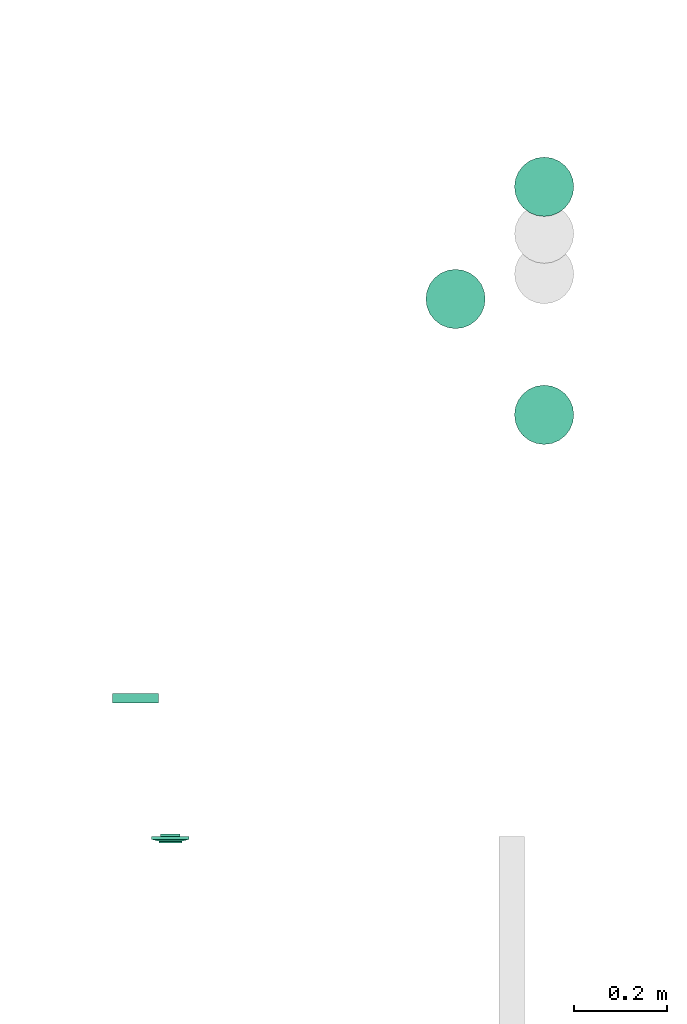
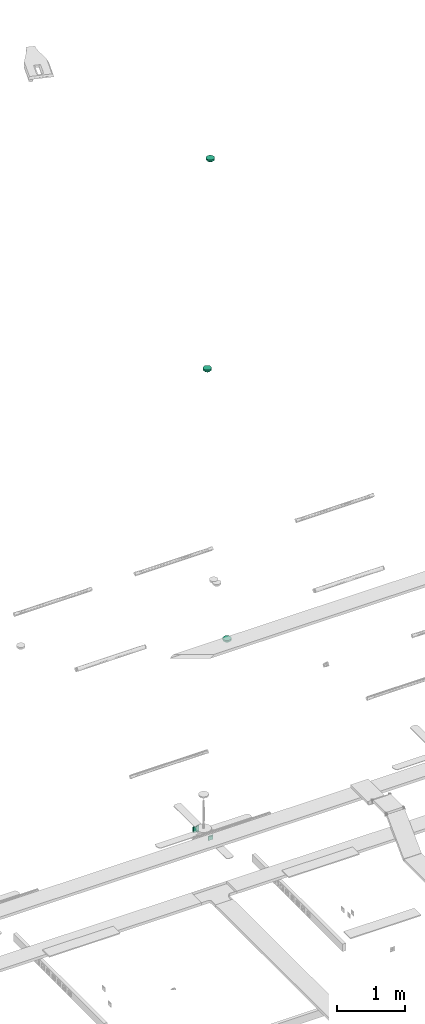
# One storey, part 122 of 153: 5 flow terminals.
"""IFC2X3 building model written with IfcOpenShell, lengths in metres."""

from ifc_helpers import new_model, entity, si_unit, converted_unit, derived_unit, direction, frame, origin, origin_2d_with_axis, place, context, subcontext, project, spatial, rectangle, extrude, faceted_brep, source, transform, mapped, type_object, type_shapes, element, save


model = new_model("IFC2X3")

# Units and contexts
model_context = context("Model", 3, precision=1e-05, world=origin(), true_north=direction((6.12303176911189e-17, 1.0)))
body_context = subcontext(model_context, "Body", "Model", "MODEL_VIEW")
ifc_project = project(units=[si_unit("LENGTHUNIT", "METRE"), si_unit("AREAUNIT", "SQUARE_METRE"), si_unit("VOLUMEUNIT", "CUBIC_METRE"), converted_unit("PLANEANGLEUNIT", "DEGREE", entity("IfcRatioMeasure", 0.0174532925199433), si_unit("PLANEANGLEUNIT", "RADIAN"), dimensions=[0, 0, 0, 0, 0, 0, 0]), si_unit("MASSUNIT", "GRAM", prefix="KILO"), derived_unit("MASSDENSITYUNIT", [(si_unit("MASSUNIT", "GRAM", prefix="KILO"), 1), (si_unit("LENGTHUNIT", "METRE"), -3)]), si_unit("TIMEUNIT", "SECOND"), si_unit("FREQUENCYUNIT", "HERTZ"), si_unit("THERMODYNAMICTEMPERATUREUNIT", "DEGREE_CELSIUS"), derived_unit("THERMALTRANSMITTANCEUNIT", [(si_unit("MASSUNIT", "GRAM", prefix="KILO"), 1), (si_unit("THERMODYNAMICTEMPERATUREUNIT", "KELVIN"), -1), (si_unit("TIMEUNIT", "SECOND"), -3)]), derived_unit("VOLUMETRICFLOWRATEUNIT", [(si_unit("LENGTHUNIT", "METRE"), 3), (si_unit("TIMEUNIT", "SECOND"), -1)]), si_unit("ELECTRICCURRENTUNIT", "AMPERE"), si_unit("ELECTRICVOLTAGEUNIT", "VOLT"), si_unit("POWERUNIT", "WATT"), si_unit("FORCEUNIT", "NEWTON"), si_unit("ILLUMINANCEUNIT", "LUX"), si_unit("LUMINOUSFLUXUNIT", "LUMEN"), si_unit("LUMINOUSINTENSITYUNIT", "CANDELA"), derived_unit("USERDEFINED", [(si_unit("MASSUNIT", "GRAM", prefix="KILO"), -1), (si_unit("LENGTHUNIT", "METRE"), -2), (si_unit("TIMEUNIT", "SECOND"), 3), (si_unit("LUMINOUSFLUXUNIT", "LUMEN"), 1)]), derived_unit("LINEARVELOCITYUNIT", [(si_unit("LENGTHUNIT", "METRE"), 1), (si_unit("TIMEUNIT", "SECOND"), -1)]), si_unit("PRESSUREUNIT", "PASCAL"), derived_unit("USERDEFINED", [(si_unit("LENGTHUNIT", "METRE"), -2), (si_unit("MASSUNIT", "GRAM", prefix="KILO"), 1), (si_unit("TIMEUNIT", "SECOND"), -2)])], contexts=[model_context])

# Site, building, storey
site_placement = place(None, origin())
site = spatial("IfcSite", under=ifc_project, at=site_placement, Name="Default", CompositionType="ELEMENT")
building_placement = place(site_placement, origin())
building = spatial("IfcBuilding", under=site, at=building_placement, CompositionType="ELEMENT")
storey_placement = place(building_placement, frame((0.0, 0.0, -4.62)))
storey = spatial("IfcBuildingStorey", under=building, at=storey_placement, Name="S02", CompositionType="ELEMENT", Elevation=-4.62)

# Flow terminals
light_fixture_type_1 = type_object("IfcLightFixtureType", Name="Détecteur 360°", PredefinedType="NOTDEFINED")
shared_shape_1 = source(origin(), body_context, "Body", "Brep", [
    faceted_brep([(0.0, -0.0397165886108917, 0.0531256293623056), (0.0, -0.034524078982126, 0.0563702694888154), (-0.0175153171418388, -0.0435914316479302, 0.0478512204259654), (-0.0194029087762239, -0.000878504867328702, 0.0644483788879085), (0.0, 0.0, 0.0669999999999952), (0.0, 0.00603476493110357, 0.0659648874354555), (-0.0174057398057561, -0.0159851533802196, 0.0630502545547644), (-0.0366619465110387, -0.0127227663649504, 0.0549213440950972), (-0.026998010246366, -0.0195753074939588, 0.0584711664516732), (-0.0202403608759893, -0.0335607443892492, 0.054639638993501), (-0.0359767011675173, -0.0348394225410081, 0.0444249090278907), (-0.0276843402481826, -0.0401006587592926, 0.0459804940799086), (-0.0133088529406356, -0.0517577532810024, 0.0400582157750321), (-0.0172617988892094, -0.0486391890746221, 0.042533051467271), (-0.0256912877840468, -0.0533485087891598, 0.0299999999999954), (-0.0462941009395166, -0.0369183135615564, 0.0299999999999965), (0.0, -0.0241390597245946, 0.0628595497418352), (-0.0186245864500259, -0.0267295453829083, 0.0589100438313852), (-0.0139070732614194, -0.0374370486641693, 0.0540817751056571), (0.0, 0.0449090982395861, 0.049880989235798), (-0.0172618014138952, 0.0486391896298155, 0.0425330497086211), (0.0, 0.0397165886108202, 0.0531256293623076), (-0.0186245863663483, 0.0267295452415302, 0.0589100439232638), (-0.0202403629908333, 0.0335607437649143, 0.054639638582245), (-0.0353547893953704, 0.0284533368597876, 0.0494330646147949), (0.0, 0.0120695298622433, 0.0649297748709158), (-0.0249385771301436, 0.0204731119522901, 0.0590841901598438), (-0.0191783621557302, 0.0150189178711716, 0.062775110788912), (-0.0465404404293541, -0.0196510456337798, 0.0438984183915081), (-0.052010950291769, -0.0250471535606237, 0.029999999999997), (-0.0453471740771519, -0.0286501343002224, 0.0397747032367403), (-0.0365036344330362, -0.0226255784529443, 0.0516441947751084), (-0.0175153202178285, 0.0435914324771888, 0.0478512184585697), (-0.0359926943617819, 0.0451334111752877, 0.0299999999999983), (-0.0276843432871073, 0.0401006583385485, 0.0459804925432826), (-0.00849704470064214, -0.0572729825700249, 0.0299999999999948), (0.0, -0.0592123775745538, 0.0299999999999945), (0.0, -0.0545512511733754, 0.0364787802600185), (0.0, -0.049890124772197, 0.0429575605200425), (-0.0169940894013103, -0.055333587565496, 0.0299999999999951), (-0.0359767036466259, 0.0348394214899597, 0.0444249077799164), (-0.025691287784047, 0.0533485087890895, 0.0299999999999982), (-0.0308419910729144, 0.0492409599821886, 0.0299999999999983), (-0.0130265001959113, 0.0514867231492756, 0.040526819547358), (-0.0169940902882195, 0.0553335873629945, 0.029999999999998), (0.0, 0.0498901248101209, 0.0429575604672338), (-0.0353547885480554, -0.0284533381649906, 0.0494330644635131), (0.0, 0.0181042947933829, 0.0638946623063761), (-0.0473669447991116, -0.00128092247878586, 0.0474310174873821), (-0.0485435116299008, -0.00908961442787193, 0.0452357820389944), (-0.0366597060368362, -0.0032867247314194, 0.0563153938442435), (-0.0226425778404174, -0.0107553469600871, 0.0624973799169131), (0.0, -0.00603476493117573, 0.0659648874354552), (0.0, 0.0293315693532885, 0.0596149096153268), (-0.0139070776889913, 0.0374370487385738, 0.0540817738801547), (-0.0449600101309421, 0.018422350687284, 0.0461366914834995), (-0.0453471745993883, 0.0286501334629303, 0.0397747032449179), (-0.0476906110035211, 0.00670602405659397, 0.0466053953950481), (-0.0577277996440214, 0.0131759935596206, 0.0299999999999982), (-0.0577277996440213, 0.00658799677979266, 0.029999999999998), (-0.0577277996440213, 0.0, 0.0299999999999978), (0.0, -0.0449090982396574, 0.0498809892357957), (-0.0308419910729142, -0.049240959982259, 0.0299999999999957), (-0.0359926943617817, -0.0451334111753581, 0.029999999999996), (0.0, 0.0345240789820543, 0.0563702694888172), (-0.0411433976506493, 0.0410258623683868, 0.0299999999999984), (-0.0462941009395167, 0.0369183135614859, 0.0299999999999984), (-0.0491525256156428, -0.03098273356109, 0.0299999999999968), (-0.0577277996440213, -0.0131759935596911, 0.0299999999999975), (0.0, -0.018104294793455, 0.0638946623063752), (-0.0377433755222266, 0.0044838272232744, 0.0554913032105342), (-0.0577277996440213, -0.00658799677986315, 0.0299999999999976), (-0.0385149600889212, 0.0124844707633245, 0.0536578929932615), (-0.0491525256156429, 0.0309827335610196, 0.0299999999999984), (-0.0548693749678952, 0.0191115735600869, 0.0299999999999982), (0.0, 0.0241390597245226, 0.0628595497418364), (-0.014625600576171, 0.0100436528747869, 0.0649170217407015), (-0.0271766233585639, 0.00920278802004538, 0.0609170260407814), (0.0, -0.0120695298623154, 0.0649297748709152), (-0.0520109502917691, 0.0250471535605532, 0.0299999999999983), (-0.0411433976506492, -0.0410258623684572, 0.0299999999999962), (-0.0548693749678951, -0.0191115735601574, 0.0299999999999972), (0.0, -0.0293315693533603, 0.0596149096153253), (0.0, 0.0545512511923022, 0.0364787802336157), (0.0, 0.0592123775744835, 0.0299999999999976), (-0.00849704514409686, 0.057272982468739, 0.0299999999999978), (-0.0127455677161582, 0.0563032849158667, 0.0299999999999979), (-0.0213426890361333, 0.054341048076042, 0.0299999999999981), (0.0175153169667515, 0.0435914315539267, 0.0478512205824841), (0.0194029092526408, 0.000878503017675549, 0.0644483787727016), (0.017405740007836, 0.0159851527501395, 0.0630502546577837), (0.0366619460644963, 0.012722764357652, 0.0549213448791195), (0.0269980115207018, 0.0195753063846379, 0.0584711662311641), (0.0202403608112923, 0.0335607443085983, 0.0546396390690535), (0.0359767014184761, 0.0348394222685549, 0.0444249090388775), (0.0276843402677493, 0.0401006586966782, 0.0459804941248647), (0.0133088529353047, 0.0517577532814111, 0.0400582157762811), (0.0172617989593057, 0.0486391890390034, 0.0425330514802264), (0.0256912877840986, 0.0533485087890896, 0.0299999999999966), (0.0462941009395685, 0.0369183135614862, 0.0299999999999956), (0.00849704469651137, 0.0572729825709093, 0.0299999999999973), (0.0169940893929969, 0.0553335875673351, 0.029999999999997), (0.0172617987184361, -0.0486391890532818, 0.0425330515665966), (0.025691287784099, -0.0533485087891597, 0.0299999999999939), (0.0308419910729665, -0.0492409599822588, 0.0299999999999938), (0.0175153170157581, -0.0435914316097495, 0.0478512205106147), (0.0186245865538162, -0.0267295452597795, 0.0589100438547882), (0.0202403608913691, -0.03356074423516, 0.0546396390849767), (0.0353547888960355, -0.0284533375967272, 0.0494330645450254), (0.0249385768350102, -0.0204731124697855, 0.0590841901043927), (0.0191783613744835, -0.0150189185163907, 0.062775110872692), (0.0465404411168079, 0.0196510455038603, 0.0438984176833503), (0.0577277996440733, 0.0131759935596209, 0.0299999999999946), (0.0548693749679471, 0.0191115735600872, 0.0299999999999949), (0.0520109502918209, 0.0250471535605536, 0.0299999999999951), (0.0365036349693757, 0.0226255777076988, 0.0516441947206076), (0.0186245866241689, 0.0267295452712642, 0.0589100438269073), (0.0359926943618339, -0.0451334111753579, 0.0299999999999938), (0.0276843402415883, -0.0401006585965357, 0.0459804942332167), (0.0139070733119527, 0.0374370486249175, 0.0540817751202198), (0.0359767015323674, -0.0348394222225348, 0.044424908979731), (0.0226425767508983, 0.0107553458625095, 0.0624973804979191), (0.0169940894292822, -0.0553335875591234, 0.0299999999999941), (0.0130264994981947, -0.0514867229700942, 0.0405268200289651), (0.0453471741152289, 0.0286501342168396, 0.039774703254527), (0.0353547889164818, 0.0284533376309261, 0.0494330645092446), (0.0473669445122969, 0.00128092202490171, 0.0474310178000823), (0.0485435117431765, 0.00908961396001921, 0.0452357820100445), (0.0366597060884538, 0.00328672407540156, 0.0563153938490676), (0.0139070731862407, -0.0374370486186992, 0.0540817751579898), (0.0449600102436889, -0.018422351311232, 0.0461366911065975), (0.0453471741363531, -0.0286501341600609, 0.039774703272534), (0.0476906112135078, -0.00670602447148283, 0.046605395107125), (0.0577277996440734, -0.0131759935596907, 0.0299999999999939), (0.0577277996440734, -0.00658799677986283, 0.0299999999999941), (0.0577277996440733, 0.0, 0.0299999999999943), (0.0308419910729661, 0.0492409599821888, 0.0299999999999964), (0.0359926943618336, 0.0451334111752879, 0.0299999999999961), (0.0411433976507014, -0.041025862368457, 0.0299999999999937), (0.0462941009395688, -0.0369183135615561, 0.0299999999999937), (0.0491525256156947, 0.0309827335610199, 0.0299999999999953), (0.037743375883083, -0.00448382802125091, 0.0554913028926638), (0.0577277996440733, 0.00658799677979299, 0.0299999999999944), (0.0385149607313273, -0.0124844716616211, 0.0536578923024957), (0.049152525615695, -0.0309827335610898, 0.0299999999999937), (0.0548693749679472, -0.0191115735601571, 0.0299999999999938), (0.0146256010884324, -0.0100436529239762, 0.0649170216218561), (0.0271766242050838, -0.00920278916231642, 0.0609170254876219), (0.0520109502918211, -0.0250471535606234, 0.0299999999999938), (0.041143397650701, 0.0410258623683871, 0.0299999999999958), (0.00849704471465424, -0.0572729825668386, 0.0299999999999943), (0.0127455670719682, -0.056303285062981, 0.0299999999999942), (0.0213426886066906, -0.0543410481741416, 0.029999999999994), (0.0, 0.0, 0.0299999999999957)], [[[0, 1, 2]], [[3, 4, 5]], [[6, 7, 8]], [[9, 10, 11]], [[12, 13, 14]], [[10, 15, 11]], [[9, 16, 17]], [[18, 9, 11]], [[19, 20, 21]], [[22, 23, 24]], [[25, 26, 27]], [[28, 29, 30]], [[8, 31, 17]], [[32, 33, 34]], [[35, 36, 37, 38, 39]], [[23, 40, 24]], [[20, 41, 42]], [[19, 43, 20]], [[44, 43, 45]], [[20, 32, 21]], [[30, 10, 46]], [[22, 26, 47]], [[48, 49, 50]], [[3, 51, 52]], [[53, 54, 23]], [[55, 24, 56]], [[57, 58, 59, 60]], [[13, 61, 0]], [[13, 0, 2]], [[2, 62, 13]], [[18, 2, 1]], [[2, 11, 63]], [[32, 64, 21]], [[32, 42, 33]], [[34, 33, 65, 66]], [[20, 42, 32]], [[54, 32, 34]], [[28, 30, 31]], [[10, 67, 15]], [[49, 68, 28]], [[8, 17, 69]], [[7, 6, 51]], [[28, 31, 7]], [[57, 48, 70]], [[58, 57, 55]], [[48, 71, 49]], [[70, 48, 50]], [[3, 50, 51]], [[55, 26, 24]], [[72, 57, 70]], [[26, 55, 72]], [[56, 40, 73]], [[56, 74, 55]], [[47, 75, 22]], [[52, 4, 3]], [[7, 50, 49]], [[5, 76, 3]], [[70, 3, 77]], [[51, 78, 52]], [[26, 25, 47]], [[76, 25, 27]], [[23, 22, 75]], [[26, 22, 24]], [[53, 64, 54]], [[23, 34, 40]], [[66, 40, 34]], [[40, 66, 73]], [[56, 73, 79, 74]], [[72, 27, 26]], [[40, 56, 24]], [[23, 75, 53]], [[69, 17, 16]], [[78, 6, 69]], [[46, 10, 9]], [[46, 9, 17]], [[50, 7, 51]], [[30, 29, 67]], [[80, 63, 11, 15]], [[28, 68, 81, 29]], [[10, 30, 67]], [[30, 46, 31]], [[82, 18, 1]], [[82, 16, 9]], [[28, 7, 49]], [[12, 39, 38]], [[61, 13, 12]], [[83, 84, 85, 86, 44, 45]], [[43, 41, 20]], [[44, 87, 41, 43]], [[32, 54, 64]], [[23, 54, 34]], [[9, 18, 82]], [[2, 18, 11]], [[39, 12, 14]], [[38, 61, 12]], [[62, 2, 63]], [[62, 14, 13]], [[17, 31, 46]], [[7, 31, 8]], [[48, 60, 71]], [[71, 68, 49]], [[60, 48, 57]], [[3, 70, 50]], [[72, 70, 77]], [[72, 77, 27]], [[55, 57, 72]], [[74, 58, 55]], [[76, 27, 77]], [[3, 76, 77]], [[25, 76, 5]], [[69, 6, 8]], [[78, 51, 6]], [[45, 43, 19]], [[21, 64, 88]], [[89, 4, 52]], [[90, 91, 92]], [[93, 94, 95]], [[96, 97, 98]], [[94, 99, 95]], [[100, 84, 83, 45, 101]], [[102, 103, 104]], [[102, 105, 0]], [[106, 107, 108]], [[78, 109, 110]], [[111, 112, 113, 114]], [[92, 115, 116]], [[105, 117, 118]], [[119, 93, 95]], [[107, 120, 108]], [[89, 121, 5]], [[122, 123, 38]], [[61, 123, 102]], [[93, 75, 116]], [[124, 94, 125]], [[106, 109, 69]], [[126, 127, 128]], [[61, 102, 0]], [[82, 129, 107]], [[130, 108, 131]], [[132, 133, 134, 135]], [[97, 19, 21]], [[97, 21, 88]], [[88, 136, 97]], [[119, 88, 64]], [[88, 95, 137]], [[105, 1, 0]], [[105, 104, 117]], [[118, 117, 138, 139]], [[102, 104, 105]], [[129, 105, 118]], [[111, 124, 115]], [[94, 140, 99]], [[127, 112, 111]], [[92, 116, 47]], [[91, 90, 121]], [[111, 115, 91]], [[132, 126, 141]], [[133, 132, 130]], [[126, 142, 127]], [[141, 126, 128]], [[89, 128, 121]], [[130, 109, 108]], [[143, 132, 141]], [[109, 130, 143]], [[131, 120, 144]], [[131, 145, 130]], [[69, 16, 106]], [[5, 4, 89]], [[91, 128, 127]], [[52, 146, 89]], [[141, 89, 147]], [[121, 25, 5]], [[109, 78, 69]], [[146, 78, 110]], [[107, 106, 16]], [[109, 106, 108]], [[82, 1, 129]], [[107, 118, 120]], [[139, 120, 118]], [[120, 139, 144]], [[131, 144, 148, 145]], [[143, 110, 109]], [[120, 131, 108]], [[107, 16, 82]], [[47, 116, 75]], [[25, 90, 47]], [[125, 94, 93]], [[125, 93, 116]], [[128, 91, 121]], [[124, 114, 140]], [[149, 137, 95, 99]], [[111, 114, 124]], [[94, 124, 140]], [[124, 125, 115]], [[53, 119, 64]], [[53, 75, 93]], [[111, 91, 127]], [[96, 101, 45]], [[19, 97, 96]], [[37, 36, 150, 151, 122, 38]], [[123, 103, 102]], [[122, 152, 103, 123]], [[105, 129, 1]], [[107, 129, 118]], [[93, 119, 53]], [[88, 119, 95]], [[101, 96, 98]], [[45, 19, 96]], [[136, 88, 137]], [[136, 98, 97]], [[116, 115, 125]], [[91, 115, 92]], [[126, 135, 142]], [[142, 112, 127]], [[135, 126, 132]], [[89, 141, 128]], [[143, 141, 147]], [[143, 147, 110]], [[130, 132, 143]], [[145, 133, 130]], [[146, 110, 147]], [[89, 146, 147]], [[78, 146, 52]], [[47, 90, 92]], [[25, 121, 90]], [[38, 123, 61]], [[153, 66, 65]], [[153, 65, 33]], [[153, 33, 42]], [[153, 42, 41]], [[153, 41, 87]], [[153, 73, 66]], [[153, 79, 73]], [[153, 74, 79]], [[153, 58, 74]], [[153, 87, 44]], [[153, 44, 86]], [[153, 86, 85]], [[153, 85, 84]], [[153, 84, 100]], [[153, 59, 58]], [[153, 60, 59]], [[153, 71, 60]], [[153, 68, 71]], [[153, 81, 68]], [[153, 29, 81]], [[153, 67, 29]], [[153, 15, 67]], [[153, 80, 15]], [[153, 63, 80]], [[153, 62, 63]], [[153, 14, 62]], [[153, 39, 14]], [[153, 35, 39]], [[153, 36, 35]], [[153, 100, 101]], [[153, 101, 98]], [[153, 98, 136]], [[153, 136, 137]], [[153, 137, 149]], [[153, 149, 99]], [[153, 99, 140]], [[153, 140, 114]], [[153, 114, 113]], [[153, 113, 112]], [[153, 112, 142]], [[153, 150, 36]], [[153, 151, 150]], [[153, 122, 151]], [[153, 152, 122]], [[153, 103, 152]], [[153, 104, 103]], [[153, 117, 104]], [[153, 138, 117]], [[153, 139, 138]], [[153, 144, 139]], [[153, 148, 144]], [[153, 145, 148]], [[153, 133, 145]], [[153, 142, 135]], [[153, 135, 134]], [[153, 134, 133]]]),
    faceted_brep([(0.0165644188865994, -0.0618192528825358, 0.029999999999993), (0.0320000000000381, -0.0554256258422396, 0.0299999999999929), (0.0452548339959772, -0.0452548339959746, 0.0299999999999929), (0.0554256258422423, -0.0320000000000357, 0.029999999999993), (0.0618192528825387, -0.016564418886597, 0.0299999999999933), (0.0640000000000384, 0.0, 0.0299999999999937), (0.0618192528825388, 0.016564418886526, 0.0299999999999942), (0.0554256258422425, 0.0319999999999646, 0.0299999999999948), (0.0452548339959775, 0.0452548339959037, 0.0299999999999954), (0.0320000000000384, 0.0554256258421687, 0.0299999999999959), (0.0165644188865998, 0.061819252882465, 0.0299999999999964), (0.0, 0.0639999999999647, 0.0299999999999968), (-0.0165644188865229, 0.061819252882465, 0.0299999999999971), (-0.0319999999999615, 0.0554256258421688, 0.0299999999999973), (-0.0452548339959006, 0.0452548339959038, 0.0299999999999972), (-0.0554256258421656, 0.0319999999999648, 0.0299999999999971), (-0.0618192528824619, 0.0165644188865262, 0.0299999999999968), (-0.0639999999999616, 0.0, 0.0299999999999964), (-0.061819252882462, -0.0165644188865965, 0.0299999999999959), (-0.0554256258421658, -0.0320000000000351, 0.0299999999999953), (-0.0452548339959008, -0.0452548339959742, 0.0299999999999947), (-0.0319999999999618, -0.0554256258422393, 0.0299999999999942), (-0.0165644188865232, -0.0618192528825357, 0.0299999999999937), (0.0, -0.0640000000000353, 0.0299999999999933), (0.0165644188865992, 0.0618192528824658, 0.0), (0.0320000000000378, 0.0554256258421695, 0.0), (0.0452548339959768, 0.0452548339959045, 0.0), (0.0554256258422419, 0.0319999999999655, 0.0), (0.0618192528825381, 0.0165644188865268, 0.0), (0.0640000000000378, 0.0, 0.0), (0.061819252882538, -0.0165644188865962, 0.0), (0.0554256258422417, -0.0320000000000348, 0.0), (0.0452548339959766, -0.0452548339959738, 0.0), (0.0320000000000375, -0.0554256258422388, 0.0), (0.0165644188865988, -0.061819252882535, 0.0), (0.0, -0.0640000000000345, 0.0), (-0.0165644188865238, -0.0618192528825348, 0.0), (-0.0319999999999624, -0.0554256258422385, 0.0), (-0.0452548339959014, -0.0452548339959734, 0.0), (-0.0554256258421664, -0.0320000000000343, 0.0), (-0.0618192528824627, -0.0165644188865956, 0.0), (-0.0639999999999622, 0.0, 0.0), (-0.0618192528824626, 0.016564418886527, 0.0), (-0.0554256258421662, 0.0319999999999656, 0.0), (-0.0452548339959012, 0.0452548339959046, 0.0), (-0.0319999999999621, 0.0554256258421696, 0.0), (-0.0165644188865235, 0.0618192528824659, 0.0), (0.0, 0.0639999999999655, 0.0)], [[[0, 1, 2, 3, 4, 5, 6, 7, 8, 9, 10, 11, 12, 13, 14, 15, 16, 17, 18, 19, 20, 21, 22, 23]], [[24, 25, 26, 27, 28, 29, 30, 31, 32, 33, 34, 35, 36, 37, 38, 39, 40, 41, 42, 43, 44, 45, 46, 47]], [[40, 18, 17, 41]], [[39, 19, 18, 40]], [[21, 20, 38, 37]], [[39, 38, 20, 19]], [[22, 21, 37, 36]], [[23, 22, 36, 35]], [[34, 0, 23, 35]], [[33, 1, 0, 34]], [[3, 2, 32, 31]], [[33, 32, 2, 1]], [[4, 3, 31, 30]], [[5, 4, 30, 29]], [[28, 6, 5, 29]], [[27, 7, 6, 28]], [[9, 8, 26, 25]], [[27, 26, 8, 7]], [[10, 9, 25, 24]], [[11, 10, 24, 47]], [[46, 12, 11, 47]], [[45, 13, 12, 46]], [[42, 41, 17, 16]], [[44, 14, 13, 45]], [[43, 15, 14, 44]], [[43, 42, 16, 15]]]),
])
type_shapes(light_fixture_type_1, [shared_shape_1])
for number, where, z_axis, x_axis in (
    (1, (57.4897436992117, -184.304488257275, 3.79999999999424), (0.0, 0.0, -1.0), (1.0, 0.0, 0.0)),
    (2, (57.2984645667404, -184.054405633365, 8.569), (0.0, 0.0, -1.0), (1.0, 0.0, 0.0)),
    (3, (57.4897436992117, -183.812119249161, 12.129), (0.0, 0.0, -1.0), (1.0, 0.0, 0.0)),
):
    element("IfcFlowTerminal", number, at=place(storey_placement, frame(where, z_axis=z_axis, x_axis=x_axis)), inside=storey, type_object=light_fixture_type_1, Name="INT - Détecteur 360°:Détecteur 360°", ObjectType="INT - Détecteur 360°:Détecteur 360°", context=body_context, shape_type="MappedRepresentation", body=[
        mapped(shared_shape_1, transform((0.0, 0.0, 0.0), scale=1.0)),
    ])
light_fixture_type_2 = type_object("IfcLightFixtureType", Name="Default", PredefinedType="NOTDEFINED")
shared_shape_2 = source(origin(), body_context, "Body", "SweptSolid", [
    extrude(rectangle(XDim=0.1, YDim=0.1, at=origin_2d_with_axis()), frame((0.0, 0.0, 0.0), z_axis=(0.0, 0.0, 1.0), x_axis=(0.0, 1.0, 0.0)), (0.0, 0.0, 1.0), 0.02),
])
type_shapes(light_fixture_type_2, [shared_shape_2])
flow_terminal_1_placement = place(storey_placement, frame((56.6073065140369, -184.926487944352, 1.05000000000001), z_axis=(0.0, 1.0, 0.0), x_axis=(-1.0, 0.0, 0.0)))
element("IfcFlowTerminal", 4, at=flow_terminal_1_placement, inside=storey, type_object=light_fixture_type_2, Name="E_Reader_Badge 1_F_MEPcontent:Default", ObjectType="E_Reader_Badge 1_F_MEPcontent:Default", context=body_context, shape_type="MappedRepresentation", body=[
    mapped(shared_shape_2, transform((0.0, 0.0, 0.0), scale=1.0)),
])
light_fixture_type_3 = type_object("IfcLightFixtureType", Name="VV IP21", PredefinedType="NOTDEFINED")
shared_shape_3 = source(origin(), body_context, "Body", "Brep", [
    faceted_brep([(0.0, 0.0209999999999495, -0.00460000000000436), (0.00543519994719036, 0.02028444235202, -0.00460000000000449), (0.0105000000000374, 0.0181865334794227, -0.00460000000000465), (0.0148492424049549, 0.014849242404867, -0.00460000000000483), (0.0181865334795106, 0.0104999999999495, -0.00460000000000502), (0.0202844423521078, 0.00543519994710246, -0.00460000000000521), (0.0210000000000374, 0.0, -0.00460000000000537), (0.0202844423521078, -0.00543519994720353, -0.00460000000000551), (0.0181865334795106, -0.0105000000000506, -0.0046000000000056), (0.0148492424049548, -0.0148492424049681, -0.00460000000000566), (0.0105000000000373, -0.0181865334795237, -0.00460000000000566), (0.00543519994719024, -0.0202844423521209, -0.00460000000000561), (0.0, -0.0210000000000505, -0.00460000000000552), (-0.00543519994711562, -0.0202844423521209, -0.00460000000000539), (-0.0104999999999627, -0.0181865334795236, -0.00460000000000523), (-0.0148492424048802, -0.0148492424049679, -0.00460000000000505), (-0.0181865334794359, -0.0105000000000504, -0.00460000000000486), (-0.0202844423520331, -0.00543519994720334, -0.00460000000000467), (-0.0209999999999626, 0.0, -0.00460000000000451), (-0.020284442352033, 0.00543519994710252, -0.00460000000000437), (-0.0181865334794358, 0.0104999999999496, -0.00460000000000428), (-0.0148492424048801, 0.0148492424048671, -0.00460000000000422), (-0.0104999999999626, 0.0181865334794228, -0.00460000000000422), (-0.00543519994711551, 0.02028444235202, -0.00460000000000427), (-0.020284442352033, -0.00543519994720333, 0.0), (-0.0209999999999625, 0.0, 0.0), (-0.0181865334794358, -0.0105000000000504, 0.0), (-0.0104999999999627, -0.0181865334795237, 0.0), (-0.0148492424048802, -0.0148492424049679, 0.0), (-0.00543519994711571, -0.020284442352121, 0.0), (0.0, -0.0210000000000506, 0.0), (0.00543519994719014, -0.0202844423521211, 0.0), (0.0105000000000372, -0.018186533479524, 0.0), (0.0181865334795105, -0.0105000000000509, 0.0), (0.0148492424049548, -0.0148492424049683, 0.0), (0.0202844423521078, -0.00543519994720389, 0.0), (0.0210000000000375, 0.0, 0.0), (0.0202844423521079, 0.00543519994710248, 0.0), (0.0181865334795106, 0.0104999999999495, 0.0), (0.0105000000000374, 0.0181865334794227, 0.0), (0.0148492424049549, 0.014849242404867, 0.0), (0.00543519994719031, 0.0202844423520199, 0.0), (0.0, 0.0209999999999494, 0.0), (-0.00543519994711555, 0.0202844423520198, 0.0), (-0.0104999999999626, 0.0181865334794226, 0.0), (-0.0181865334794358, 0.0104999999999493, 0.0), (-0.0148492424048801, 0.0148492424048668, 0.0), (-0.020284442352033, 0.00543519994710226, 0.0)], [[[0, 1, 2, 3, 4, 5, 6, 7, 8, 9, 10, 11, 12, 13, 14, 15, 16, 17, 18, 19, 20, 21, 22, 23]], [[17, 24, 25, 18]], [[16, 26, 24, 17]], [[27, 28, 15, 14]], [[16, 15, 28, 26]], [[29, 27, 14, 13]], [[30, 29, 13, 12]], [[11, 31, 30, 12]], [[10, 32, 31, 11]], [[33, 34, 9, 8]], [[10, 9, 34, 32]], [[35, 33, 8, 7]], [[36, 35, 7, 6]], [[5, 37, 36, 6]], [[4, 38, 37, 5]], [[39, 40, 3, 2]], [[4, 3, 40, 38]], [[41, 39, 2, 1]], [[42, 41, 1, 0]], [[23, 43, 42, 0]], [[22, 44, 43, 23]], [[45, 46, 21, 20]], [[22, 21, 46, 44]], [[47, 45, 20, 19]], [[25, 47, 19, 18]], [[25, 24, 26, 28, 27, 29, 30, 31, 32, 34, 33, 35, 36, 37, 38, 40, 39, 41, 42, 43, 44, 46, 45, 47]]]),
    faceted_brep([(0.0270000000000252, 0.026999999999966, 0.0103999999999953), (-0.0269999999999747, 0.026999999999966, 0.0103999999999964), (-0.0269999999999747, -0.0270000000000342, 0.0103999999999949), (0.0270000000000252, -0.0270000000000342, 0.0103999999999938), (-0.0254999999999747, 0.0258096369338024, 0.0103999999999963), (0.0255000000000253, 0.0258096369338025, 0.0103999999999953), (0.0255000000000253, -0.0255000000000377, 0.0103999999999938), (-0.0254999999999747, -0.0255000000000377, 0.0103999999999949), (0.0270000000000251, 0.0269999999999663, 0.00199999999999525), (0.0270000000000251, -0.0270000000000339, 0.00199999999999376), (-0.0269999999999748, -0.0270000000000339, 0.00199999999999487), (-0.0269999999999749, 0.0269999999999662, 0.00199999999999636), (0.0255000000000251, 0.0258096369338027, 0.00199999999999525), (-0.0254999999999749, 0.0258096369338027, 0.0019999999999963), (-0.0254999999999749, -0.0255000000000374, 0.00199999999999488), (0.0255000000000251, -0.0255000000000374, 0.00199999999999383)], [[[0, 1, 2, 3], [4, 5, 6, 7]], [[8, 9, 10, 11], [12, 13, 14, 15]], [[1, 0, 8, 11]], [[2, 1, 11, 10]], [[3, 2, 10, 9]], [[0, 3, 9, 8]], [[12, 5, 4, 13]], [[13, 4, 7, 14]], [[14, 7, 6, 15]], [[5, 12, 15, 6]]]),
    faceted_brep([(0.0250000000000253, 0.0253096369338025, 0.00659999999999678), (0.0250000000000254, 0.0253096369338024, 0.0117095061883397), (0.0250000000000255, -0.0245000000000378, 0.0142232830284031), (0.0250000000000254, -0.0250000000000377, 0.0117095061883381), (0.0250000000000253, -0.0250000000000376, 0.00659999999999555), (-0.0249999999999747, 0.0253096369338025, 0.00659999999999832), (-0.0249999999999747, -0.0250000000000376, 0.00659999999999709), (-0.0249999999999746, -0.0250000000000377, 0.0117095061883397), (-0.0249999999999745, -0.0245000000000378, 0.0142232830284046), (-0.0249999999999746, 0.0253096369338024, 0.0117095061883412)], [[[0, 1, 2, 3, 4]], [[5, 6, 7, 8, 9]], [[1, 0, 5, 9]], [[2, 1, 9, 8]], [[3, 2, 8, 7]], [[4, 3, 7, 6]], [[0, 4, 6, 5]]]),
    faceted_brep([(0.027000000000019, 0.0269999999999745, 0.00659999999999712), (-0.0269999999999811, 0.0269999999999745, 0.00659999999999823), (-0.026999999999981, -0.0270000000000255, 0.00659999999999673), (0.027000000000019, -0.0270000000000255, 0.00659999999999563), (0.040350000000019, 0.0403499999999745, 0.00659999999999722), (0.040350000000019, -0.0403500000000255, 0.00659999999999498), (-0.0403499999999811, -0.0403500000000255, 0.00659999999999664), (-0.0403499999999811, 0.0403499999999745, 0.00659999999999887), (-0.026999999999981, 0.0269999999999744, 0.0103999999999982), (0.027000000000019, 0.0269999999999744, 0.0103999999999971), (-0.026999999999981, -0.0270000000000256, 0.0103999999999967), (0.027000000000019, -0.0270000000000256, 0.0103999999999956)], [[[0, 1, 2, 3], [4, 5, 6, 7]], [[4, 7, 8, 9]], [[7, 6, 10, 8]], [[6, 5, 11, 10]], [[5, 4, 9, 11]], [[0, 9, 8, 1]], [[1, 8, 10, 2]], [[2, 10, 11, 3]], [[9, 0, 3, 11]]], outer=[[False, True], [True], [True], [True], [True], [True], [True], [True], [True]]),
    faceted_brep([(0.040350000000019, 0.0403499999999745, 0.00659999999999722), (-0.0403499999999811, 0.0403499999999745, 0.00659999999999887), (-0.0403499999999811, -0.0403500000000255, 0.00659999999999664), (0.040350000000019, -0.0403500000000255, 0.00659999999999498), (-0.0269999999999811, 0.0269999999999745, 0.00659999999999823), (0.0270000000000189, 0.0269999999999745, 0.00659999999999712), (0.0270000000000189, -0.0270000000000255, 0.00659999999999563), (-0.0269999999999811, -0.0270000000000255, 0.00659999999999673), (0.0403500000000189, 0.0403499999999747, 0.0), (0.0403500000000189, -0.0403500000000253, 0.0), (-0.0403499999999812, -0.0403500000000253, 0.0), (-0.0403499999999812, 0.0403499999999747, 0.0), (0.0270000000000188, 0.0269999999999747, 0.0), (-0.0269999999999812, 0.0269999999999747, 0.0), (-0.0269999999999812, -0.0270000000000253, 0.0), (0.0270000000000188, -0.0270000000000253, 0.0)], [[[0, 1, 2, 3], [4, 5, 6, 7]], [[8, 9, 10, 11], [12, 13, 14, 15]], [[1, 0, 8, 11]], [[2, 1, 11, 10]], [[3, 2, 10, 9]], [[0, 3, 9, 8]], [[12, 5, 4, 13]], [[13, 4, 7, 14]], [[14, 7, 6, 15]], [[5, 12, 15, 6]]]),
])
type_shapes(light_fixture_type_3, [shared_shape_3])
flow_terminal_2_placement = place(storey_placement, frame((56.6827436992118, -185.214488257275, 1.05000000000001), z_axis=(0.0, -1.0, 0.0), x_axis=(1.0, 0.0, 0.0)))
element("IfcFlowTerminal", 5, at=flow_terminal_2_placement, inside=storey, type_object=light_fixture_type_3, Name="INT_Inter VV:VV IP21", ObjectType="INT_Inter VV:VV IP21", context=body_context, shape_type="MappedRepresentation", body=[
    mapped(shared_shape_3, transform((0.0, 0.0, 0.0), scale=1.0)),
])

save(model, "model.ifc")
